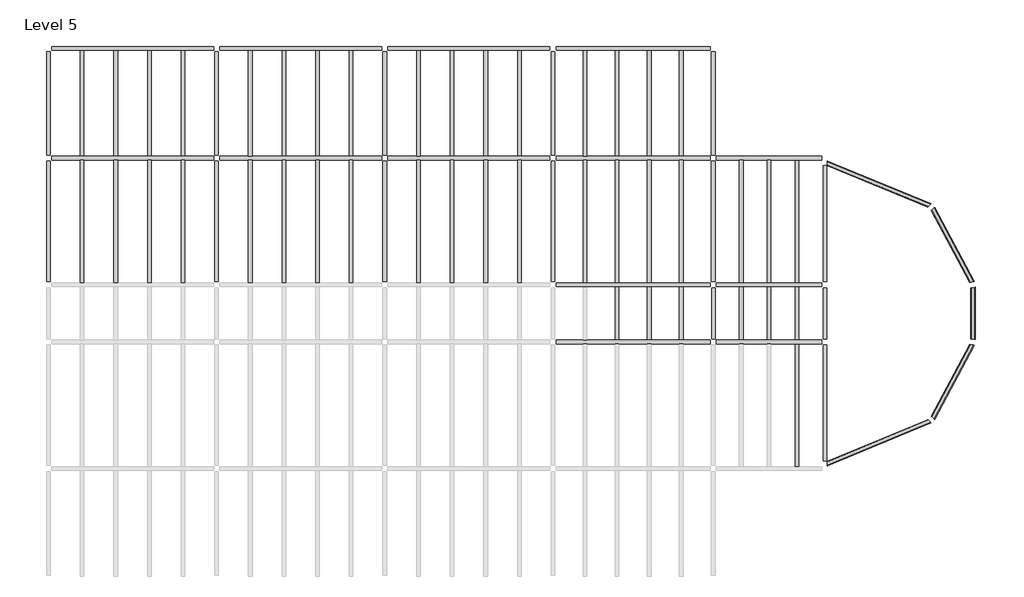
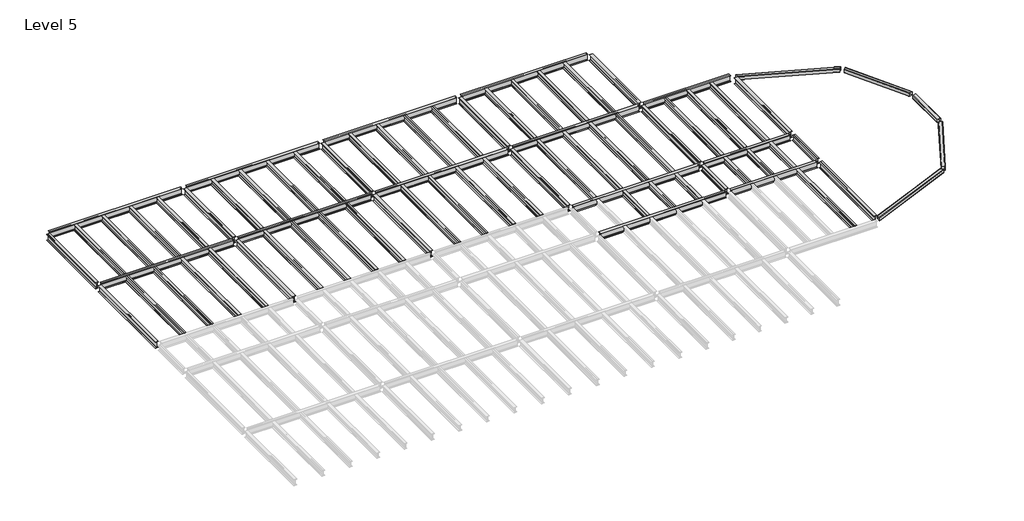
# One storey, part 2 of 2: 74 beams.
"""IFC4 building model written with IfcOpenShell, lengths in millimetres."""

from ifc_helpers import new_model, si_unit, origin, place, context, project, spatial, transform, mapped, element, save
from components import hss_square_hss8x8x3_8_81874951, hss_square_hss8x8x3_8_df46a162, hss_square_hss8x8x3_8_1cc8d9bf, hss_square_hss8x8x3_8_2c6f5ad9, w_shapes_w12x26_ac08b433, w_shapes_w12x26_80971791, w_shapes_w12x26_13ab2ca8, w_shapes_w12x26_1a00c8bd, w_shapes_w14x30_2b5df836, w_shapes_w14x30_7cdcd298, w_shapes_w14x30_aa676985, w_shapes_w14x30_0fa609c7, w_shapes_w14x30_8a2fed69, w_shapes_w14x30_0dffa004, w_shapes_w14x30_1dc52f8a

model = new_model("IFC4")

# Units and contexts
model_context = context("Model", 3, world=origin())
ifc_project = project(units=[si_unit("LENGTHUNIT", "METRE", prefix="MILLI")], contexts=[model_context])

# Site, building, storey
site = spatial("IfcSite", under=ifc_project)
building = spatial("IfcBuilding", under=site)
storey = spatial("IfcBuildingStorey", under=building, Name="Level 5", Elevation=14478.0)

# Beams
placement = place(None, origin())
hss_square_hss8x8x3_8_shape = hss_square_hss8x8x3_8_81874951(model_context)
element("IfcBeam", 1, ObjectType="HSS Square : HSS8X8X3/8", at=placement, inside=storey, context=model_context, shape_type="MappedRepresentation", body=[
    mapped(hss_square_hss8x8x3_8_shape, transform((17937.9339721, 4304.5648319, 14376.4), x_axis=(1.0, 0.0, 0.0), y_axis=(0.0, 1.0, 0.0), z_axis=(0.0, 0.0, 1.0))),
])
element("IfcBeam", 2, ObjectType="HSS Square : HSS8X8X3/8", at=placement, inside=storey, context=model_context, shape_type="MappedRepresentation", body=[
    mapped(hss_square_hss8x8x3_8_shape, transform((22753.596317, -7321.472513, 14376.4), x_axis=(-0.7071067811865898, -0.7071067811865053, 0.0), y_axis=(0.7071067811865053, -0.7071067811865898, 0.0), z_axis=(0.0, 0.0, 1.0))),
])
hss_square_hss8x8x3_8_2_shape = hss_square_hss8x8x3_8_df46a162(model_context)
element("IfcBeam", 3, ObjectType="HSS Square : HSS8X8X3/8", at=placement, inside=storey, context=model_context, shape_type="MappedRepresentation", body=[
    mapped(hss_square_hss8x8x3_8_2_shape, transform((22753.596317, 2309.8521769, 14376.4), x_axis=(0.7071067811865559, -0.7071067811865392, 0.0), y_axis=(0.7071067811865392, 0.7071067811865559, 0.0), z_axis=(0.0, 0.0, 1.0))),
])
hss_square_hss8x8x3_8_3_shape = hss_square_hss8x8x3_8_1cc8d9bf(model_context)
element("IfcBeam", 4, ObjectType="HSS Square : HSS8X8X3/8", at=placement, inside=storey, context=model_context, shape_type="MappedRepresentation", body=[
    mapped(hss_square_hss8x8x3_8_3_shape, transform((24623.6673698, -1208.8226681, 14376.4), x_axis=(0.19044289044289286, -0.9816982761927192, 0.0), y_axis=(0.9816982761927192, 0.19044289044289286, 0.0), z_axis=(0.0, 0.0, 1.0))),
])
hss_square_hss8x8x3_8_4_shape = hss_square_hss8x8x3_8_2c6f5ad9(model_context)
element("IfcBeam", 5, ObjectType="HSS Square : HSS8X8X3/8", at=placement, inside=storey, context=model_context, shape_type="MappedRepresentation", body=[
    mapped(hss_square_hss8x8x3_8_4_shape, transform((24623.6673698, -3802.7976681, 14376.4), x_axis=(-0.19044289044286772, -0.981698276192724, 0.0), y_axis=(0.981698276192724, -0.19044289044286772, 0.0), z_axis=(0.0, 0.0, 1.0))),
])
w_shapes_w12x26_shape = w_shapes_w12x26_ac08b433(model_context)
element("IfcBeam", 6, ObjectType="W Shapes : W12X26", at=placement, inside=storey, context=model_context, shape_type="MappedRepresentation", body=[
    mapped(w_shapes_w12x26_shape, transform((12884.9214721, -2505.8101681, 14323.06), x_axis=(0.0, -1.0, 0.0), y_axis=(1.0, 0.0, 0.0), z_axis=(0.0, 0.0, 1.0))),
])
element("IfcBeam", 7, ObjectType="W Shapes : W12X26", at=placement, inside=storey, context=model_context, shape_type="MappedRepresentation", body=[
    mapped(w_shapes_w12x26_shape, transform((17937.9339721, -2505.8101681, 14323.06), x_axis=(0.0, -1.0, 0.0), y_axis=(1.0, 0.0, 0.0), z_axis=(0.0, 0.0, 1.0))),
])
w_shapes_w12x26_2_shape = w_shapes_w12x26_80971791(model_context)
element("IfcBeam", 8, ObjectType="W Shapes : W12X26", at=placement, inside=storey, context=model_context, shape_type="MappedRepresentation", body=[
    mapped(w_shapes_w12x26_2_shape, transform((-15718.6535279, 7022.3648319, 14323.06), x_axis=(0.0, 1.0, 0.0), y_axis=(-1.0, 0.0, 0.0), z_axis=(0.0, 0.0, 1.0))),
])
element("IfcBeam", 9, ObjectType="W Shapes : W12X26", at=placement, inside=storey, context=model_context, shape_type="MappedRepresentation", body=[
    mapped(w_shapes_w12x26_2_shape, transform((-14194.6535279, 7022.3648319, 14323.06), x_axis=(0.0, 1.0, 0.0), y_axis=(-1.0, 0.0, 0.0), z_axis=(0.0, 0.0, 1.0))),
])
element("IfcBeam", 10, ObjectType="W Shapes : W12X26", at=placement, inside=storey, context=model_context, shape_type="MappedRepresentation", body=[
    mapped(w_shapes_w12x26_2_shape, transform((-12670.6535279, 7022.3648319, 14323.06), x_axis=(0.0, 1.0, 0.0), y_axis=(-1.0, 0.0, 0.0), z_axis=(0.0, 0.0, 1.0))),
])
element("IfcBeam", 11, ObjectType="W Shapes : W12X26", at=placement, inside=storey, context=model_context, shape_type="MappedRepresentation", body=[
    mapped(w_shapes_w12x26_2_shape, transform((-11146.6535279, 7022.3648319, 14323.06), x_axis=(0.0, 1.0, 0.0), y_axis=(-1.0, 0.0, 0.0), z_axis=(0.0, 0.0, 1.0))),
])
element("IfcBeam", 12, ObjectType="W Shapes : W12X26", at=placement, inside=storey, context=model_context, shape_type="MappedRepresentation", body=[
    mapped(w_shapes_w12x26_2_shape, transform((-3526.6535279, 7022.3648319, 14323.06), x_axis=(0.0, -1.0, 0.0), y_axis=(1.0, 0.0, 0.0), z_axis=(0.0, 0.0, 1.0))),
])
element("IfcBeam", 13, ObjectType="W Shapes : W12X26", at=placement, inside=storey, context=model_context, shape_type="MappedRepresentation", body=[
    mapped(w_shapes_w12x26_2_shape, transform((-5050.6535279, 7022.3648319, 14323.06), x_axis=(0.0, -1.0, 0.0), y_axis=(1.0, 0.0, 0.0), z_axis=(0.0, 0.0, 1.0))),
])
element("IfcBeam", 14, ObjectType="W Shapes : W12X26", at=placement, inside=storey, context=model_context, shape_type="MappedRepresentation", body=[
    mapped(w_shapes_w12x26_2_shape, transform((-6574.6535279, 7022.3648319, 14323.06), x_axis=(0.0, -1.0, 0.0), y_axis=(1.0, 0.0, 0.0), z_axis=(0.0, 0.0, 1.0))),
])
element("IfcBeam", 15, ObjectType="W Shapes : W12X26", at=placement, inside=storey, context=model_context, shape_type="MappedRepresentation", body=[
    mapped(w_shapes_w12x26_2_shape, transform((-8098.6535279, 7022.3648319, 14323.06), x_axis=(0.0, -1.0, 0.0), y_axis=(1.0, 0.0, 0.0), z_axis=(0.0, 0.0, 1.0))),
])
element("IfcBeam", 16, ObjectType="W Shapes : W12X26", at=placement, inside=storey, context=model_context, shape_type="MappedRepresentation", body=[
    mapped(w_shapes_w12x26_2_shape, transform((4093.3464721, 7022.3648319, 14323.06), x_axis=(0.0, -1.0, 0.0), y_axis=(1.0, 0.0, 0.0), z_axis=(0.0, 0.0, 1.0))),
])
element("IfcBeam", 17, ObjectType="W Shapes : W12X26", at=placement, inside=storey, context=model_context, shape_type="MappedRepresentation", body=[
    mapped(w_shapes_w12x26_2_shape, transform((2569.3464721, 7022.3648319, 14323.06), x_axis=(0.0, -1.0, 0.0), y_axis=(1.0, 0.0, 0.0), z_axis=(0.0, 0.0, 1.0))),
])
element("IfcBeam", 18, ObjectType="W Shapes : W12X26", at=placement, inside=storey, context=model_context, shape_type="MappedRepresentation", body=[
    mapped(w_shapes_w12x26_2_shape, transform((1045.3464721, 7022.3648319, 14323.06), x_axis=(0.0, -1.0, 0.0), y_axis=(1.0, 0.0, 0.0), z_axis=(0.0, 0.0, 1.0))),
])
element("IfcBeam", 19, ObjectType="W Shapes : W12X26", at=placement, inside=storey, context=model_context, shape_type="MappedRepresentation", body=[
    mapped(w_shapes_w12x26_2_shape, transform((-478.6535279, 7022.3648319, 14323.06), x_axis=(0.0, -1.0, 0.0), y_axis=(1.0, 0.0, 0.0), z_axis=(0.0, 0.0, 1.0))),
])
element("IfcBeam", 20, ObjectType="W Shapes : W12X26", at=placement, inside=storey, context=model_context, shape_type="MappedRepresentation", body=[
    mapped(w_shapes_w12x26_2_shape, transform((11431.4064721, 7022.3648319, 14323.06), x_axis=(0.0, -1.0, 0.0), y_axis=(1.0, 0.0, 0.0), z_axis=(0.0, 0.0, 1.0))),
])
element("IfcBeam", 21, ObjectType="W Shapes : W12X26", at=placement, inside=storey, context=model_context, shape_type="MappedRepresentation", body=[
    mapped(w_shapes_w12x26_2_shape, transform((9977.8914721, 7022.3648319, 14323.06), x_axis=(0.0, -1.0, 0.0), y_axis=(1.0, 0.0, 0.0), z_axis=(0.0, 0.0, 1.0))),
])
element("IfcBeam", 22, ObjectType="W Shapes : W12X26", at=placement, inside=storey, context=model_context, shape_type="MappedRepresentation", body=[
    mapped(w_shapes_w12x26_2_shape, transform((8524.3764721, 7022.3648319, 14323.06), x_axis=(0.0, -1.0, 0.0), y_axis=(1.0, 0.0, 0.0), z_axis=(0.0, 0.0, 1.0))),
])
element("IfcBeam", 23, ObjectType="W Shapes : W12X26", at=placement, inside=storey, context=model_context, shape_type="MappedRepresentation", body=[
    mapped(w_shapes_w12x26_2_shape, transform((7070.8614721, 7022.3648319, 14323.06), x_axis=(0.0, -1.0, 0.0), y_axis=(1.0, 0.0, 0.0), z_axis=(0.0, 0.0, 1.0))),
])
w_shapes_w12x26_3_shape = w_shapes_w12x26_13ab2ca8(model_context)
element("IfcBeam", 24, ObjectType="W Shapes : W12X26", at=placement, inside=storey, context=model_context, shape_type="MappedRepresentation", body=[
    mapped(w_shapes_w12x26_3_shape, transform((11431.4064721, 1662.9648319, 14323.06), x_axis=(0.0, -1.0, 0.0), y_axis=(1.0, 0.0, 0.0), z_axis=(0.0, 0.0, 1.0))),
])
element("IfcBeam", 25, ObjectType="W Shapes : W12X26", at=placement, inside=storey, context=model_context, shape_type="MappedRepresentation", body=[
    mapped(w_shapes_w12x26_3_shape, transform((9977.8914721, 1662.9648319, 14323.06), x_axis=(0.0, -1.0, 0.0), y_axis=(1.0, 0.0, 0.0), z_axis=(0.0, 0.0, 1.0))),
])
element("IfcBeam", 26, ObjectType="W Shapes : W12X26", at=placement, inside=storey, context=model_context, shape_type="MappedRepresentation", body=[
    mapped(w_shapes_w12x26_3_shape, transform((8524.3764721, 1662.9648319, 14323.06), x_axis=(0.0, -1.0, 0.0), y_axis=(1.0, 0.0, 0.0), z_axis=(0.0, 0.0, 1.0))),
])
element("IfcBeam", 27, ObjectType="W Shapes : W12X26", at=placement, inside=storey, context=model_context, shape_type="MappedRepresentation", body=[
    mapped(w_shapes_w12x26_3_shape, transform((7070.8614721, 1662.9648319, 14323.06), x_axis=(0.0, -1.0, 0.0), y_axis=(1.0, 0.0, 0.0), z_axis=(0.0, 0.0, 1.0))),
])
element("IfcBeam", 28, ObjectType="W Shapes : W12X26", at=placement, inside=storey, context=model_context, shape_type="MappedRepresentation", body=[
    mapped(w_shapes_w12x26_3_shape, transform((4093.3464721, 1662.9648319, 14323.06), x_axis=(0.0, -1.0, 0.0), y_axis=(1.0, 0.0, 0.0), z_axis=(0.0, 0.0, 1.0))),
])
element("IfcBeam", 29, ObjectType="W Shapes : W12X26", at=placement, inside=storey, context=model_context, shape_type="MappedRepresentation", body=[
    mapped(w_shapes_w12x26_3_shape, transform((2569.3464721, 1662.9648319, 14323.06), x_axis=(0.0, -1.0, 0.0), y_axis=(1.0, 0.0, 0.0), z_axis=(0.0, 0.0, 1.0))),
])
element("IfcBeam", 30, ObjectType="W Shapes : W12X26", at=placement, inside=storey, context=model_context, shape_type="MappedRepresentation", body=[
    mapped(w_shapes_w12x26_3_shape, transform((1045.3464721, 1662.9648319, 14323.06), x_axis=(0.0, -1.0, 0.0), y_axis=(1.0, 0.0, 0.0), z_axis=(0.0, 0.0, 1.0))),
])
element("IfcBeam", 31, ObjectType="W Shapes : W12X26", at=placement, inside=storey, context=model_context, shape_type="MappedRepresentation", body=[
    mapped(w_shapes_w12x26_3_shape, transform((-478.6535279, 1662.9648319, 14323.06), x_axis=(0.0, -1.0, 0.0), y_axis=(1.0, 0.0, 0.0), z_axis=(0.0, 0.0, 1.0))),
])
element("IfcBeam", 32, ObjectType="W Shapes : W12X26", at=placement, inside=storey, context=model_context, shape_type="MappedRepresentation", body=[
    mapped(w_shapes_w12x26_3_shape, transform((-3526.6535279, 1662.9648319, 14323.06), x_axis=(0.0, -1.0, 0.0), y_axis=(1.0, 0.0, 0.0), z_axis=(0.0, 0.0, 1.0))),
])
element("IfcBeam", 33, ObjectType="W Shapes : W12X26", at=placement, inside=storey, context=model_context, shape_type="MappedRepresentation", body=[
    mapped(w_shapes_w12x26_3_shape, transform((-5050.6535279, 1662.9648319, 14323.06), x_axis=(0.0, -1.0, 0.0), y_axis=(1.0, 0.0, 0.0), z_axis=(0.0, 0.0, 1.0))),
])
element("IfcBeam", 34, ObjectType="W Shapes : W12X26", at=placement, inside=storey, context=model_context, shape_type="MappedRepresentation", body=[
    mapped(w_shapes_w12x26_3_shape, transform((-6574.6535279, 1662.9648319, 14323.06), x_axis=(0.0, -1.0, 0.0), y_axis=(1.0, 0.0, 0.0), z_axis=(0.0, 0.0, 1.0))),
])
element("IfcBeam", 35, ObjectType="W Shapes : W12X26", at=placement, inside=storey, context=model_context, shape_type="MappedRepresentation", body=[
    mapped(w_shapes_w12x26_3_shape, transform((-8098.6535279, 1662.9648319, 14323.06), x_axis=(0.0, -1.0, 0.0), y_axis=(1.0, 0.0, 0.0), z_axis=(0.0, 0.0, 1.0))),
])
element("IfcBeam", 36, ObjectType="W Shapes : W12X26", at=placement, inside=storey, context=model_context, shape_type="MappedRepresentation", body=[
    mapped(w_shapes_w12x26_3_shape, transform((-15718.6535279, 1662.9648319, 14323.06), x_axis=(0.0, 1.0, 0.0), y_axis=(-1.0, 0.0, 0.0), z_axis=(0.0, 0.0, 1.0))),
])
element("IfcBeam", 37, ObjectType="W Shapes : W12X26", at=placement, inside=storey, context=model_context, shape_type="MappedRepresentation", body=[
    mapped(w_shapes_w12x26_3_shape, transform((-14194.6535279, 1662.9648319, 14323.06), x_axis=(0.0, 1.0, 0.0), y_axis=(-1.0, 0.0, 0.0), z_axis=(0.0, 0.0, 1.0))),
])
element("IfcBeam", 38, ObjectType="W Shapes : W12X26", at=placement, inside=storey, context=model_context, shape_type="MappedRepresentation", body=[
    mapped(w_shapes_w12x26_3_shape, transform((-12670.6535279, 1662.9648319, 14323.06), x_axis=(0.0, 1.0, 0.0), y_axis=(-1.0, 0.0, 0.0), z_axis=(0.0, 0.0, 1.0))),
])
element("IfcBeam", 39, ObjectType="W Shapes : W12X26", at=placement, inside=storey, context=model_context, shape_type="MappedRepresentation", body=[
    mapped(w_shapes_w12x26_3_shape, transform((-11146.6535279, 1662.9648319, 14323.06), x_axis=(0.0, 1.0, 0.0), y_axis=(-1.0, 0.0, 0.0), z_axis=(0.0, 0.0, 1.0))),
])
element("IfcBeam", 40, ObjectType="W Shapes : W12X26", at=placement, inside=storey, context=model_context, shape_type="MappedRepresentation", body=[
    mapped(w_shapes_w12x26_3_shape, transform((16674.6808471, 1662.9648319, 14323.06), x_axis=(0.0, -1.0, 0.0), y_axis=(1.0, 0.0, 0.0), z_axis=(0.0, 0.0, 1.0))),
])
element("IfcBeam", 41, ObjectType="W Shapes : W12X26", at=placement, inside=storey, context=model_context, shape_type="MappedRepresentation", body=[
    mapped(w_shapes_w12x26_3_shape, transform((15411.4277221, 1662.9648319, 14323.06), x_axis=(0.0, -1.0, 0.0), y_axis=(1.0, 0.0, 0.0), z_axis=(0.0, 0.0, 1.0))),
])
element("IfcBeam", 42, ObjectType="W Shapes : W12X26", at=placement, inside=storey, context=model_context, shape_type="MappedRepresentation", body=[
    mapped(w_shapes_w12x26_3_shape, transform((14148.1745971, 1662.9648319, 14323.06), x_axis=(0.0, -1.0, 0.0), y_axis=(1.0, 0.0, 0.0), z_axis=(0.0, 0.0, 1.0))),
])
element("IfcBeam", 43, ObjectType="W Shapes : W12X26", at=placement, inside=storey, context=model_context, shape_type="MappedRepresentation", body=[
    mapped(w_shapes_w12x26_3_shape, transform((16674.6808471, -6674.5851681, 14323.06), x_axis=(0.0, 1.0, 0.0), y_axis=(-1.0, 0.0, 0.0), z_axis=(0.0, 0.0, 1.0))),
])
w_shapes_w12x26_4_shape = w_shapes_w12x26_1a00c8bd(model_context)
element("IfcBeam", 44, ObjectType="W Shapes : W12X26", at=placement, inside=storey, context=model_context, shape_type="MappedRepresentation", body=[
    mapped(w_shapes_w12x26_4_shape, transform((11431.4064721, -2505.8101681, 14323.06), x_axis=(0.0, -1.0, 0.0), y_axis=(1.0, 0.0, 0.0), z_axis=(0.0, 0.0, 1.0))),
])
element("IfcBeam", 45, ObjectType="W Shapes : W12X26", at=placement, inside=storey, context=model_context, shape_type="MappedRepresentation", body=[
    mapped(w_shapes_w12x26_4_shape, transform((9977.8914721, -2505.8101681, 14323.06), x_axis=(0.0, -1.0, 0.0), y_axis=(1.0, 0.0, 0.0), z_axis=(0.0, 0.0, 1.0))),
])
element("IfcBeam", 46, ObjectType="W Shapes : W12X26", at=placement, inside=storey, context=model_context, shape_type="MappedRepresentation", body=[
    mapped(w_shapes_w12x26_4_shape, transform((8524.3764721, -2505.8101681, 14323.06), x_axis=(0.0, -1.0, 0.0), y_axis=(1.0, 0.0, 0.0), z_axis=(0.0, 0.0, 1.0))),
])
element("IfcBeam", 47, ObjectType="W Shapes : W12X26", at=placement, inside=storey, context=model_context, shape_type="MappedRepresentation", body=[
    mapped(w_shapes_w12x26_4_shape, transform((16674.6808471, -2505.8101681, 14323.06), x_axis=(0.0, -1.0, 0.0), y_axis=(1.0, 0.0, 0.0), z_axis=(0.0, 0.0, 1.0))),
])
element("IfcBeam", 48, ObjectType="W Shapes : W12X26", at=placement, inside=storey, context=model_context, shape_type="MappedRepresentation", body=[
    mapped(w_shapes_w12x26_4_shape, transform((15411.4277221, -2505.8101681, 14323.06), x_axis=(0.0, -1.0, 0.0), y_axis=(1.0, 0.0, 0.0), z_axis=(0.0, 0.0, 1.0))),
])
element("IfcBeam", 49, ObjectType="W Shapes : W12X26", at=placement, inside=storey, context=model_context, shape_type="MappedRepresentation", body=[
    mapped(w_shapes_w12x26_4_shape, transform((14148.1745971, -2505.8101681, 14323.06), x_axis=(0.0, -1.0, 0.0), y_axis=(1.0, 0.0, 0.0), z_axis=(0.0, 0.0, 1.0))),
])
w_shapes_w14x30_shape = w_shapes_w14x30_2b5df836(model_context)
element("IfcBeam", 50, ObjectType="W Shapes : W14X30", at=placement, inside=storey, context=model_context, shape_type="MappedRepresentation", body=[
    mapped(w_shapes_w14x30_shape, transform((-13432.6535279, 9509.9773319, 14302.74), x_axis=(1.0, 0.0, 0.0), y_axis=(0.0, 1.0, 0.0), z_axis=(0.0, 0.0, 1.0))),
])
element("IfcBeam", 51, ObjectType="W Shapes : W14X30", at=placement, inside=storey, context=model_context, shape_type="MappedRepresentation", body=[
    mapped(w_shapes_w14x30_shape, transform((-5812.6535279, 9509.9773319, 14302.74), x_axis=(1.0, 0.0, 0.0), y_axis=(0.0, 1.0, 0.0), z_axis=(0.0, 0.0, 1.0))),
])
element("IfcBeam", 52, ObjectType="W Shapes : W14X30", at=placement, inside=storey, context=model_context, shape_type="MappedRepresentation", body=[
    mapped(w_shapes_w14x30_shape, transform((1807.3464721, 9509.9773319, 14302.74), x_axis=(1.0, 0.0, 0.0), y_axis=(0.0, 1.0, 0.0), z_axis=(0.0, 0.0, 1.0))),
])
element("IfcBeam", 53, ObjectType="W Shapes : W14X30", at=placement, inside=storey, context=model_context, shape_type="MappedRepresentation", body=[
    mapped(w_shapes_w14x30_shape, transform((1807.3464721, 4534.7523319, 14302.74), x_axis=(-1.0, 0.0, 0.0), y_axis=(0.0, -1.0, 0.0), z_axis=(0.0, 0.0, 1.0))),
])
element("IfcBeam", 54, ObjectType="W Shapes : W14X30", at=placement, inside=storey, context=model_context, shape_type="MappedRepresentation", body=[
    mapped(w_shapes_w14x30_shape, transform((-5812.6535279, 4534.7523319, 14302.74), x_axis=(-1.0, 0.0, 0.0), y_axis=(0.0, -1.0, 0.0), z_axis=(0.0, 0.0, 1.0))),
])
element("IfcBeam", 55, ObjectType="W Shapes : W14X30", at=placement, inside=storey, context=model_context, shape_type="MappedRepresentation", body=[
    mapped(w_shapes_w14x30_shape, transform((-13432.6535279, 4534.7523319, 14302.74), x_axis=(-1.0, 0.0, 0.0), y_axis=(0.0, -1.0, 0.0), z_axis=(0.0, 0.0, 1.0))),
])
w_shapes_w14x30_2_shape = w_shapes_w14x30_7cdcd298(model_context)
element("IfcBeam", 56, ObjectType="W Shapes : W14X30", at=placement, inside=storey, context=model_context, shape_type="MappedRepresentation", body=[
    mapped(w_shapes_w14x30_2_shape, transform((9251.1339721, 9509.9773319, 14302.74), x_axis=(1.0, 0.0, 0.0), y_axis=(0.0, 1.0, 0.0), z_axis=(0.0, 0.0, 1.0))),
])
element("IfcBeam", 57, ObjectType="W Shapes : W14X30", at=placement, inside=storey, context=model_context, shape_type="MappedRepresentation", body=[
    mapped(w_shapes_w14x30_2_shape, transform((9251.1339721, -1208.8226681, 14302.74), x_axis=(-1.0, 0.0, 0.0), y_axis=(0.0, -1.0, 0.0), z_axis=(0.0, 0.0, 1.0))),
])
element("IfcBeam", 58, ObjectType="W Shapes : W14X30", at=placement, inside=storey, context=model_context, shape_type="MappedRepresentation", body=[
    mapped(w_shapes_w14x30_2_shape, transform((9251.1339721, 4534.7523319, 14302.74), x_axis=(-1.0, 0.0, 0.0), y_axis=(0.0, -1.0, 0.0), z_axis=(0.0, 0.0, 1.0))),
])
element("IfcBeam", 59, ObjectType="W Shapes : W14X30", at=placement, inside=storey, context=model_context, shape_type="MappedRepresentation", body=[
    mapped(w_shapes_w14x30_2_shape, transform((9251.1339721, -3802.7976681, 14302.74), x_axis=(1.0, 0.0, 0.0), y_axis=(0.0, 1.0, 0.0), z_axis=(0.0, 0.0, 1.0))),
])
w_shapes_w14x30_3_shape = w_shapes_w14x30_aa676985(model_context)
element("IfcBeam", 60, ObjectType="W Shapes : W14X30", at=placement, inside=storey, context=model_context, shape_type="MappedRepresentation", body=[
    mapped(w_shapes_w14x30_3_shape, transform((12884.9214721, 7022.3648319, 14302.74), x_axis=(0.0, -1.0, 0.0), y_axis=(1.0, 0.0, 0.0), z_axis=(0.0, 0.0, 1.0))),
])
element("IfcBeam", 61, ObjectType="W Shapes : W14X30", at=placement, inside=storey, context=model_context, shape_type="MappedRepresentation", body=[
    mapped(w_shapes_w14x30_3_shape, transform((-17242.6535279, 7022.3648319, 14302.74), x_axis=(0.0, 1.0, 0.0), y_axis=(-1.0, 0.0, 0.0), z_axis=(0.0, 0.0, 1.0))),
])
element("IfcBeam", 62, ObjectType="W Shapes : W14X30", at=placement, inside=storey, context=model_context, shape_type="MappedRepresentation", body=[
    mapped(w_shapes_w14x30_3_shape, transform((-9622.6535279, 7022.3648319, 14302.74), x_axis=(0.0, -1.0, 0.0), y_axis=(1.0, 0.0, 0.0), z_axis=(0.0, 0.0, 1.0))),
])
element("IfcBeam", 63, ObjectType="W Shapes : W14X30", at=placement, inside=storey, context=model_context, shape_type="MappedRepresentation", body=[
    mapped(w_shapes_w14x30_3_shape, transform((-2002.6535279, 7022.3648319, 14302.74), x_axis=(0.0, -1.0, 0.0), y_axis=(1.0, 0.0, 0.0), z_axis=(0.0, 0.0, 1.0))),
])
element("IfcBeam", 64, ObjectType="W Shapes : W14X30", at=placement, inside=storey, context=model_context, shape_type="MappedRepresentation", body=[
    mapped(w_shapes_w14x30_3_shape, transform((5617.3464721, 7022.3648319, 14302.74), x_axis=(0.0, -1.0, 0.0), y_axis=(1.0, 0.0, 0.0), z_axis=(0.0, 0.0, 1.0))),
])
w_shapes_w14x30_4_shape = w_shapes_w14x30_0fa609c7(model_context)
element("IfcBeam", 65, ObjectType="W Shapes : W14X30", at=placement, inside=storey, context=model_context, shape_type="MappedRepresentation", body=[
    mapped(w_shapes_w14x30_4_shape, transform((15411.4277221, 4534.7523319, 14302.74), x_axis=(1.0, 0.0, 0.0), y_axis=(0.0, 1.0, 0.0), z_axis=(0.0, 0.0, 1.0))),
])
element("IfcBeam", 66, ObjectType="W Shapes : W14X30", at=placement, inside=storey, context=model_context, shape_type="MappedRepresentation", body=[
    mapped(w_shapes_w14x30_4_shape, transform((15411.4277221, -1208.8226681, 14302.74), x_axis=(-1.0, 0.0, 0.0), y_axis=(0.0, -1.0, 0.0), z_axis=(0.0, 0.0, 1.0))),
])
element("IfcBeam", 67, ObjectType="W Shapes : W14X30", at=placement, inside=storey, context=model_context, shape_type="MappedRepresentation", body=[
    mapped(w_shapes_w14x30_4_shape, transform((15411.4277221, -3802.7976681, 14302.74), x_axis=(1.0, 0.0, 0.0), y_axis=(0.0, 1.0, 0.0), z_axis=(0.0, 0.0, 1.0))),
])
w_shapes_w14x30_5_shape = w_shapes_w14x30_8a2fed69(model_context)
element("IfcBeam", 68, ObjectType="W Shapes : W14X30", at=placement, inside=storey, context=model_context, shape_type="MappedRepresentation", body=[
    mapped(w_shapes_w14x30_5_shape, transform((17937.9339721, 1547.8710819, 14302.74), x_axis=(0.0, -1.0, 0.0), y_axis=(1.0, 0.0, 0.0), z_axis=(0.0, 0.0, 1.0))),
])
w_shapes_w14x30_6_shape = w_shapes_w14x30_0dffa004(model_context)
element("IfcBeam", 69, ObjectType="W Shapes : W14X30", at=placement, inside=storey, context=model_context, shape_type="MappedRepresentation", body=[
    mapped(w_shapes_w14x30_6_shape, transform((-17242.6535279, 1662.9648319, 14302.74), x_axis=(0.0, 1.0, 0.0), y_axis=(-1.0, 0.0, 0.0), z_axis=(0.0, 0.0, 1.0))),
])
element("IfcBeam", 70, ObjectType="W Shapes : W14X30", at=placement, inside=storey, context=model_context, shape_type="MappedRepresentation", body=[
    mapped(w_shapes_w14x30_6_shape, transform((-9622.6535279, 1662.9648319, 14302.74), x_axis=(0.0, -1.0, 0.0), y_axis=(1.0, 0.0, 0.0), z_axis=(0.0, 0.0, 1.0))),
])
element("IfcBeam", 71, ObjectType="W Shapes : W14X30", at=placement, inside=storey, context=model_context, shape_type="MappedRepresentation", body=[
    mapped(w_shapes_w14x30_6_shape, transform((-2002.6535279, 1662.9648319, 14302.74), x_axis=(0.0, -1.0, 0.0), y_axis=(1.0, 0.0, 0.0), z_axis=(0.0, 0.0, 1.0))),
])
element("IfcBeam", 72, ObjectType="W Shapes : W14X30", at=placement, inside=storey, context=model_context, shape_type="MappedRepresentation", body=[
    mapped(w_shapes_w14x30_6_shape, transform((5617.3464721, 1662.9648319, 14302.74), x_axis=(0.0, -1.0, 0.0), y_axis=(1.0, 0.0, 0.0), z_axis=(0.0, 0.0, 1.0))),
])
element("IfcBeam", 73, ObjectType="W Shapes : W14X30", at=placement, inside=storey, context=model_context, shape_type="MappedRepresentation", body=[
    mapped(w_shapes_w14x30_6_shape, transform((12884.9214721, 1662.9648319, 14302.74), x_axis=(0.0, -1.0, 0.0), y_axis=(1.0, 0.0, 0.0), z_axis=(0.0, 0.0, 1.0))),
])
w_shapes_w14x30_7_shape = w_shapes_w14x30_1dc52f8a(model_context)
element("IfcBeam", 74, ObjectType="W Shapes : W14X30", at=placement, inside=storey, context=model_context, shape_type="MappedRepresentation", body=[
    mapped(w_shapes_w14x30_7_shape, transform((17937.9339721, -6559.4914181, 14302.74), x_axis=(0.0, -1.0, 0.0), y_axis=(1.0, 0.0, 0.0), z_axis=(0.0, 0.0, 1.0))),
])

save(model, "model.ifc")
